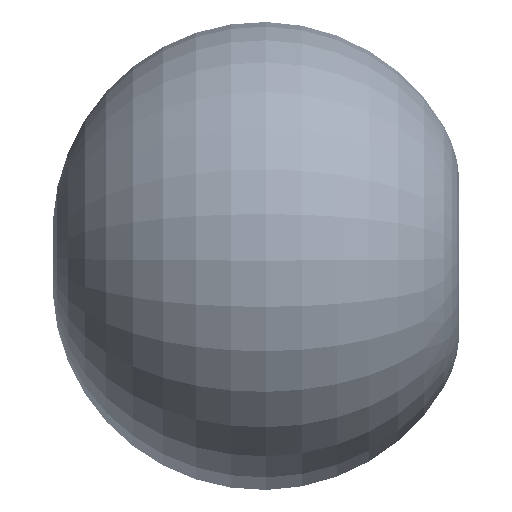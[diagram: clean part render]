
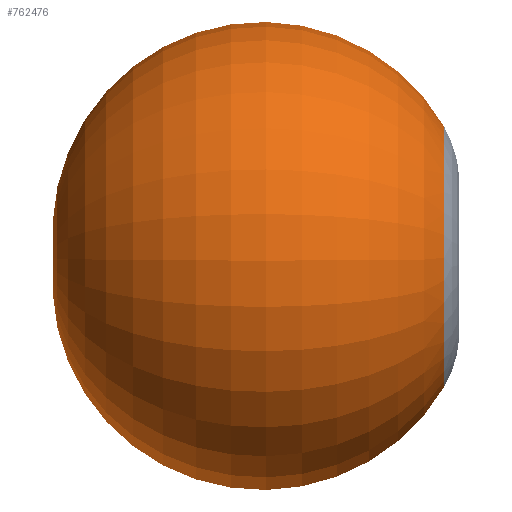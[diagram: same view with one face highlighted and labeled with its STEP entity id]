
A CAD part, left-side view. The second image highlights one B-rep face of the part: STEP entity #762476.
In plain terms, the highlighted toroidal (fillet/blend) face has major radius 210 mm and minor radius 1706.95 mm.
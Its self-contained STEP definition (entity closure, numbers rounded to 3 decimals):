
#618 = ORIENTED_EDGE ( 'NONE', *, *, #40744, .T. ) ;
#33227 = AXIS2_PLACEMENT_3D ( 'NONE', #633134, #747524, #65611 ) ;
#40744 = EDGE_CURVE ( 'NONE', #162973, #320432, #333865, .T. ) ;
#65611 = DIRECTION ( 'NONE',  ( 0., 0., -1. ) ) ;
#73223 = AXIS2_PLACEMENT_3D ( 'NONE', #429235, #441360, #555893 ) ;
#94787 = DIRECTION ( 'NONE',  ( -0.985, 0., -0.174 ) ) ;
#98705 = CARTESIAN_POINT ( 'NONE',  ( 0., -978.866, 0. ) ) ;
#103430 = CIRCLE ( 'NONE', #560077, 1063.477 ) ;
#105018 = EDGE_CURVE ( 'NONE', #162973, #310027, #430661, .T. ) ;
#110506 = CARTESIAN_POINT ( 'NONE',  ( 184.671, -978.866, -1047.321 ) ) ;
#119371 = CARTESIAN_POINT ( 'NONE',  ( 0., 2193.387, 0. ) ) ;
#156102 = DIRECTION ( 'NONE',  ( -0.174, 0., 0.985 ) ) ;
#162973 = VERTEX_POINT ( 'NONE', #119371 ) ;
#209147 = AXIS2_PLACEMENT_3D ( 'NONE', #597145, #94787, #156102 ) ;
#223821 = EDGE_LOOP ( 'NONE', ( #334829, #332989, #618 ) ) ;
#254477 = CARTESIAN_POINT ( 'NONE',  ( -184.671, -978.866, -1047.321 ) ) ;
#310027 = VERTEX_POINT ( 'NONE', #110506 ) ;
#320432 = VERTEX_POINT ( 'NONE', #254477 ) ;
#332989 = ORIENTED_EDGE ( 'NONE', *, *, #105018, .F. ) ;
#333865 = CIRCLE ( 'NONE', #73223, 1706.954 ) ;
#334829 = ORIENTED_EDGE ( 'NONE', *, *, #640689, .F. ) ;
#397047 = DIRECTION ( 'NONE',  ( 0., -1., 0. ) ) ;
#398263 = TOROIDAL_SURFACE ( 'NONE', #33227, 210., 1706.954 ) ;
#429235 = CARTESIAN_POINT ( 'NONE',  ( -36.466, 499.4, -206.81 ) ) ;
#430661 = CIRCLE ( 'NONE', #209147, 1706.954 ) ;
#441360 = DIRECTION ( 'NONE',  ( -0.985, 0., 0.174 ) ) ;
#502566 = FACE_OUTER_BOUND ( 'NONE', #223821, .T. ) ;
#555893 = DIRECTION ( 'NONE',  ( 0.174, 0., 0.985 ) ) ;
#560077 = AXIS2_PLACEMENT_3D ( 'NONE', #98705, #397047, #585003 ) ;
#585003 = DIRECTION ( 'NONE',  ( 0., 0., -1. ) ) ;
#597145 = CARTESIAN_POINT ( 'NONE',  ( 36.466, 499.4, -206.81 ) ) ;
#633134 = CARTESIAN_POINT ( 'NONE',  ( 0., 499.4, 0. ) ) ;
#640689 = EDGE_CURVE ( 'NONE', #310027, #320432, #103430, .T. ) ;
#747524 = DIRECTION ( 'NONE',  ( 0., -1., 0. ) ) ;
#762476 = ADVANCED_FACE ( 'NONE', ( #502566 ), #398263, .T. ) ;
